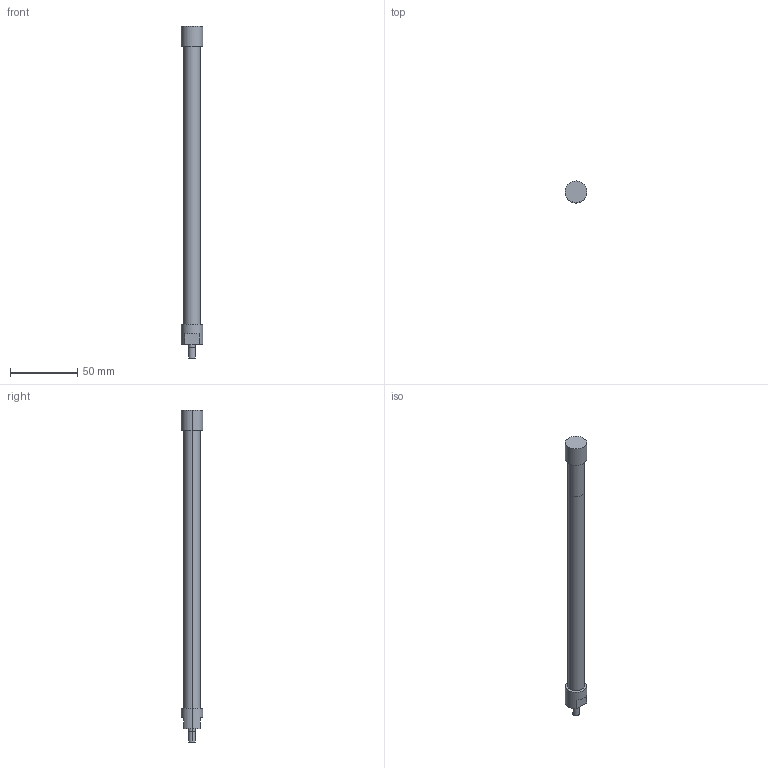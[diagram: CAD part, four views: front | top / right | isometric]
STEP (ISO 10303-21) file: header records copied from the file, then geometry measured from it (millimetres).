
FILE_DESCRIPTION(('STEP AP214'),'1');
FILE_NAME('ETT-R025M245.stp','2015-02-04T08:07:13',(' '),(' '),'Spatial InterOp 3D',' ',' ');
FILE_SCHEMA(('automotive_design'));
Length unit declared in the file: metre
Products named in the file (2): 1; 2
Bounding box: 16 x 16 x 246 mm (x, y, z)
Volume: 12568.3 mm3; surface area: 16375.7 mm2
Topology: 1 solids, 5 shells, 24 faces, 56 edges, 42 vertices
Faces by surface type: cylinder 12, plane 12
Entity records: 952 total; most frequent: DIRECTION 142, CARTESIAN_POINT 124, ORIENTED_EDGE 100, AXIS2_PLACEMENT_3D 60, EDGE_CURVE 56, VERTEX_POINT 42, CIRCLE 34, EDGE_LOOP 28
